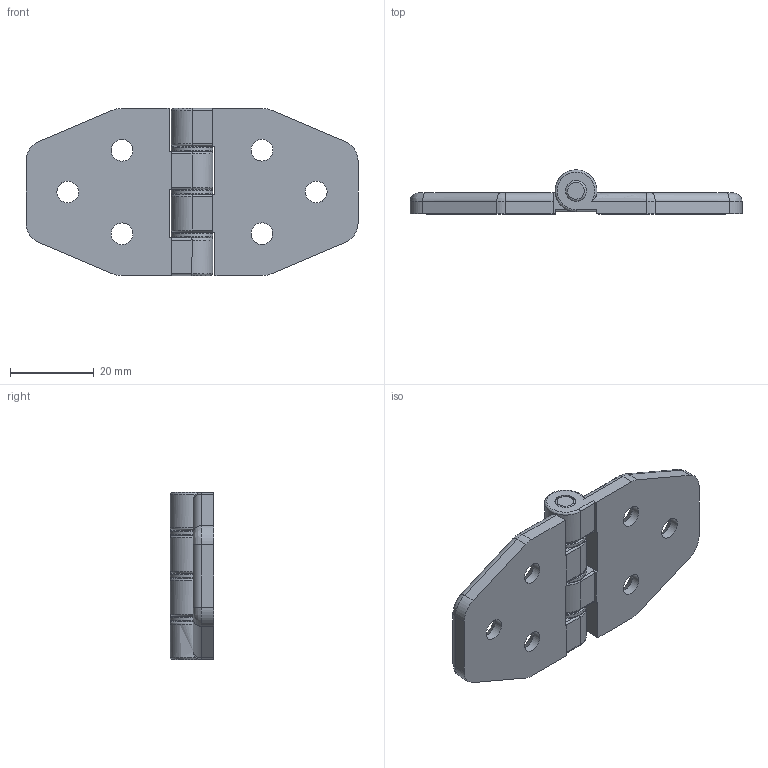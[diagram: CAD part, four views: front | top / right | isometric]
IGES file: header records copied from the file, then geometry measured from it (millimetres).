
Global section: file name: DR_HC4080; native system: Autodesk Inventor 2015; preprocessor: unknown; author: CH.J; date: 20170823.130233; units: millimetre
Bounding box: 79.5 x 10.5 x 40 mm (x, y, z)
Volume: 13674.1 mm3; surface area: 8981.5 mm2
Topology: 3 solids, 3 shells, 117 faces, 319 edges, 214 vertices
Faces by surface type: bspline 117
